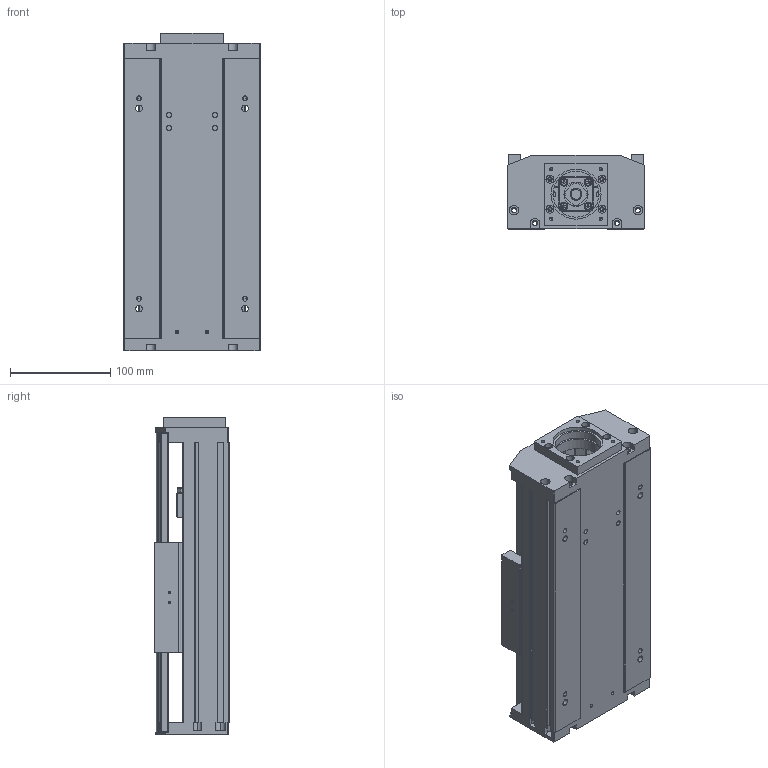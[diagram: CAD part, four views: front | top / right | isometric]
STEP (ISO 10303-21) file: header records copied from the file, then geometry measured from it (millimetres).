
FILE_DESCRIPTION (( 'STEP AP203' ), '1' );
FILE_NAME ('TKA13605C-50A1F0.STEP', '2019-03-29T02:51:00', ( 'User' ), ( 'China' ), 'SwSTEP 2.0', 'SolidWorks 2016', '' );
FILE_SCHEMA (( 'CONFIG_CONTROL_DESIGN' ));
Length unit declared in the file: millimetre
Products named in the file (3): TKA13605C-50A1F0; 錨璃19; 賑怢TKA136-F0-2
Assembly tree (2 placements, depth 2):
  TKA13605C-50A1F0
    賑怢TKA136-F0-2
    錨璃19
Bounding box: 136 x 75 x 317 mm (x, y, z)
Volume: 1176643.7 mm3; surface area: 443817.5 mm2
Topology: 2 solids, 16 shells, 1143 faces, 3117 edges, 1977 vertices
Faces by surface type: cylinder 535, plane 492, cone 108, torus 8
Entity records: 38472 total; most frequent: CARTESIAN_POINT 8992, DIRECTION 6179, ORIENTED_EDGE 6098, EDGE_CURVE 3049, AXIS2_PLACEMENT_3D 2252, VERTEX_POINT 1977, LINE 1675, VECTOR 1675
